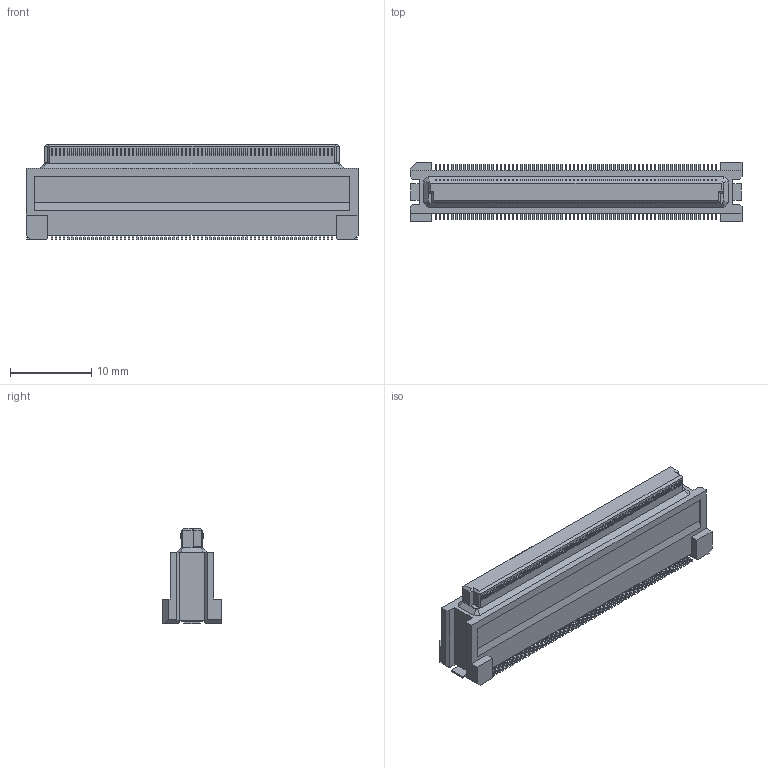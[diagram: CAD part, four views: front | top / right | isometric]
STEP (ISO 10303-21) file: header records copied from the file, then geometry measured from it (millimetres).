
FILE_DESCRIPTION(('Creo Elements/Direct Modeling STEP Export'),'2;1');
FILE_NAME('DY10-140FS-3.stp','2017-11-28T 9:42:58',(''),(''),'Creo Elements/Direct Modeling STEP processor for AP214 (Solid Model)','Creo Elements/Direct Modeling 19.0F 14-Feb-2017 (C) Parametric Technology GmbH','');
FILE_SCHEMA(('AUTOMOTIVE_DESIGN { 1 0 10303 214 1 1 1 1 }'));
Products named in the file (2): DY10-140FS-3
Assembly tree (1 placements, depth 2):
  DY10-140FS-3
    DY10-140FS-3
Bounding box: 40.9 x 7.3 x 11.73 mm (x, y, z)
Volume: 1895.3 mm3; surface area: 1750.7 mm2
Topology: 1 solids, 1 shells, 1970 faces, 5433 edges, 3610 vertices
Faces by surface type: plane 1396, cylinder 566, bspline 8
Entity records: 62348 total; most frequent: CARTESIAN_POINT 12047, ORIENTED_EDGE 10866, DIRECTION 9917, EDGE_CURVE 5433, VECTOR 4277, LINE 4277, VERTEX_POINT 3610, AXIS2_PLACEMENT_3D 2820
